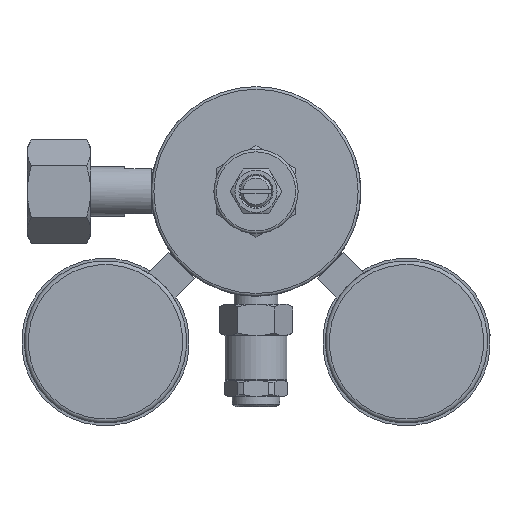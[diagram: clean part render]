
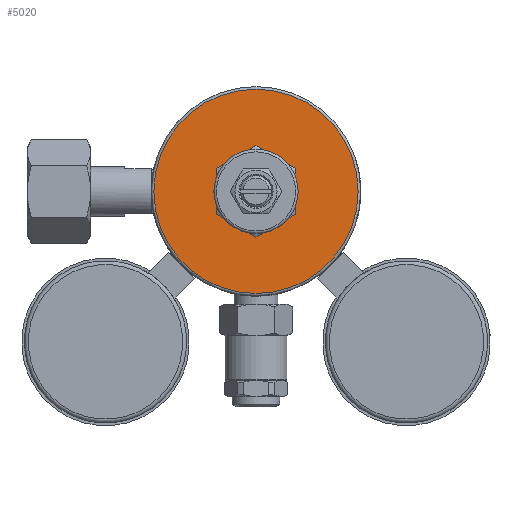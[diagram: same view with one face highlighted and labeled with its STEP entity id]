
A CAD part, front view. The second image highlights one B-rep face of the part: STEP entity #5020.
In plain terms, the highlighted planar face has unit normal (0, -1, 0).
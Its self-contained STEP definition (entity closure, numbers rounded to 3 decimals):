
#366=FACE_BOUND('',#1886,.T.);
#1006=PLANE('',#5842);
#1196=CIRCLE('',#5840,10.746);
#1198=CIRCLE('',#5843,38.75);
#1523=FACE_OUTER_BOUND('',#1885,.T.);
#1885=EDGE_LOOP('',(#3765));
#1886=EDGE_LOOP('',(#3766));
#2365=VERTEX_POINT('',#8700);
#2366=VERTEX_POINT('',#8705);
#2883=EDGE_CURVE('',#2365,#2365,#1196,.T.);
#2885=EDGE_CURVE('',#2366,#2366,#1198,.T.);
#3765=ORIENTED_EDGE('',*,*,#2885,.F.);
#3766=ORIENTED_EDGE('',*,*,#2883,.F.);
#5020=ADVANCED_FACE('',(#1523,#366),#1006,.T.);
#5840=AXIS2_PLACEMENT_3D('',#8702,#6802,#6803);
#5842=AXIS2_PLACEMENT_3D('',#8704,#6806,#6807);
#5843=AXIS2_PLACEMENT_3D('',#8706,#6808,#6809);
#6802=DIRECTION('center_axis',(0.,-1.,0.));
#6803=DIRECTION('ref_axis',(-1.,0.,0.));
#6806=DIRECTION('center_axis',(0.,-1.,0.));
#6807=DIRECTION('ref_axis',(0.,0.,
-1.));
#6808=DIRECTION('center_axis',(0.,1.,0.));
#6809=DIRECTION('ref_axis',(-1.,0.,0.));
#8700=CARTESIAN_POINT('',(10.746,0.,0.));
#8702=CARTESIAN_POINT('Origin',(0.,0.,
0.));
#8704=CARTESIAN_POINT('Origin',(10.4,0.,0.));
#8705=CARTESIAN_POINT('',(0.,0.,38.75));
#8706=CARTESIAN_POINT('Origin',(0.,0.,
0.));
